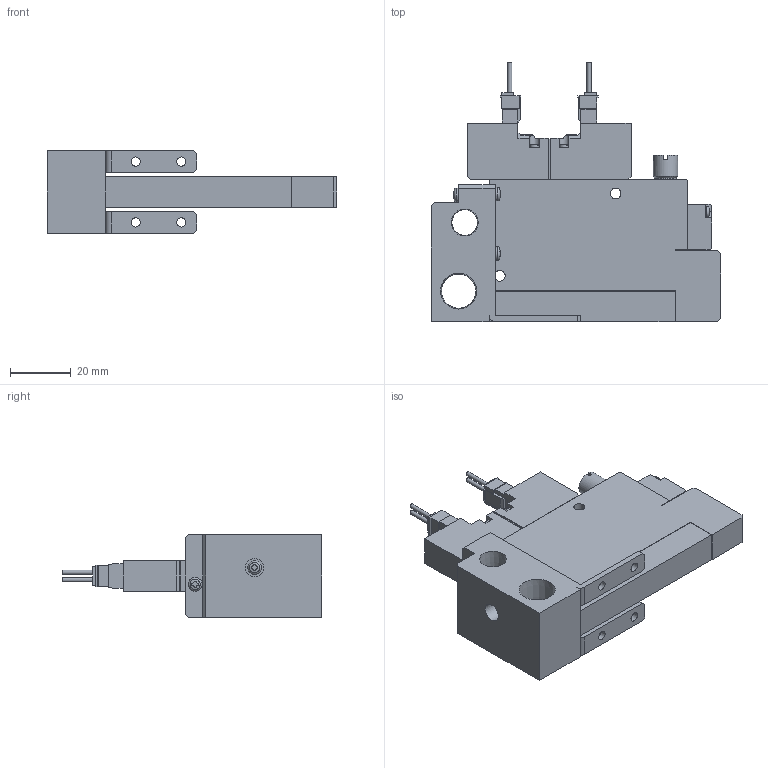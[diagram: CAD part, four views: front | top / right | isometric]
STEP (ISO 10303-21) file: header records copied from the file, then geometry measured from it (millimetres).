
FILE_DESCRIPTION(('STEP AP203'),'1');
FILE_NAME('ZZC5SC101_3D.stp','2024-09-04T06:21:43',(' '),(' '),'Spatial InterOp 3D',' ',' ');
FILE_SCHEMA(('CONFIG_CONTROL_DESIGN'));
Length unit declared in the file: millimetre
Products named in the file (5): BSC1M※※ZZC5SC101; Solenoid valve S; Pressure Sensor ZZ; Unit-C; BaseMC10R
Assembly tree (4 placements, depth 2):
  BSC1M※※ZZC5SC101
    Solenoid valve S
    Pressure Sensor ZZ
    Unit-C
    BaseMC10R
Bounding box: 95 x 85.05 x 27 mm (x, y, z)
Volume: 62310.2 mm3; surface area: 22972.5 mm2
Topology: 4 solids, 4 shells, 431 faces, 1155 edges, 762 vertices
Faces by surface type: plane 314, cylinder 90, cone 11, sphere 8, torus 8
Full cylindrical faces by diameter (mm): 1.4 x4, 2.5 x2, 3 x8, 3.5 x6, 4 x1, 4.134 x2, 4.5 x6, 5.5 x1, 6 x1, 7 x2, 8 x1, 8.422 x1, 11.233 x1
Entity records: 13588 total; most frequent: CARTESIAN_POINT 2751, ORIENTED_EDGE 2142, DIRECTION 2137, EDGE_CURVE 1071, LINE 807, VECTOR 807, VERTEX_POINT 742, AXIS2_PLACEMENT_3D 665
